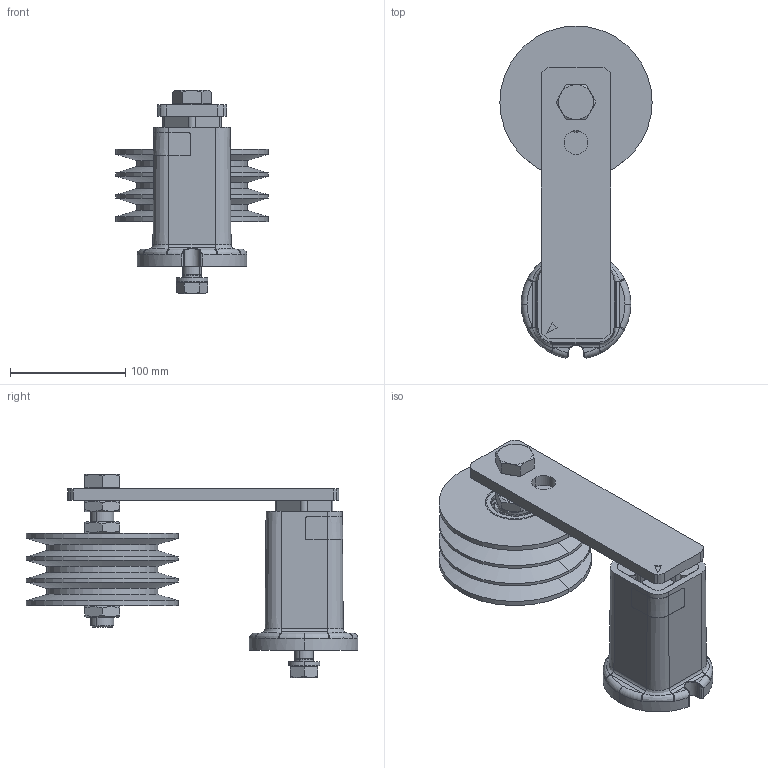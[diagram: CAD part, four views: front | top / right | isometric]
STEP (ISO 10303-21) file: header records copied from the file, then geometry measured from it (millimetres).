
FILE_DESCRIPTION((''),'2;1');
FILE_NAME('\\rostaofc\data\uw\save\daten_f\Normprogramm 3D\Spannelemente\KSE38-SPB3_06201009.stp','2004-09-28T11:23:58',('uw'),(''),'Autodesk Inventor 8','Autodesk Inventor 8','');
FILE_SCHEMA(('AUTOMOTIVE_DESIGN { 1 0 10303 214 1 1 1 1 }'));
Length unit declared in the file: millimetre
Products named in the file (16): ROSTA-Spannelement KSE 38 SPB 125-3; SE38 (Normelement); Gehäuse SE38; Innenteil zu ROSTA-Spannelement SE38, Hebel m. 2-Loch; Hebel zu SE38 (m. 2- Loch); 3_10_6664-001; 3_10_6674-001; Sechskantschraube - M16 x 40; Federring - A 16; Bauteil1; Keilriemenscheibe SPB 125-3 komplett; Keilriemenscheibe SPB 125-3 bearbeitet; Kugellager 6304-2Z; Distanzbüchse zu Keilriemenscheibe SPB 125-3; Sechskantschraube - M20 x 120; Sechskantmutter - M20
Assembly tree (21 placements, depth 4):
  ROSTA-Spannelement KSE 38 SPB 125-3
    SE38 (Normelement)
      Gehäuse SE38
      Innenteil zu ROSTA-Spannelement SE38, Hebel m. 2-Loch
        Hebel zu SE38 (m. 2- Loch)
        3_10_6664-001
      3_10_6674-001  x4
      Sechskantschraube - M16 x 40
      Federring - A 16
      Bauteil1
    Keilriemenscheibe SPB 125-3 komplett
      Keilriemenscheibe SPB 125-3 bearbeitet
      Kugellager 6304-2Z  x2
      Distanzbüchse zu Keilriemenscheibe SPB 125-3
    Sechskantschraube - M20 x 120
    Sechskantmutter - M20  x3
Bounding box: 132 x 287.59 x 176 mm (x, y, z)
Volume: 1200693.7 mm3; surface area: 299730.5 mm2
Topology: 20 solids, 36 shells, 482 faces, 1204 edges, 676 vertices
Faces by surface type: plane 134, cylinder 130, bspline 105, cone 56, sphere 32, torus 25
Entity records: 12638 total; most frequent: CARTESIAN_POINT 4248, DIRECTION 1812, ORIENTED_EDGE 1624, EDGE_CURVE 812, AXIS2_PLACEMENT_3D 758, VERTEX_POINT 484, CIRCLE 424, EDGE_LOOP 396
